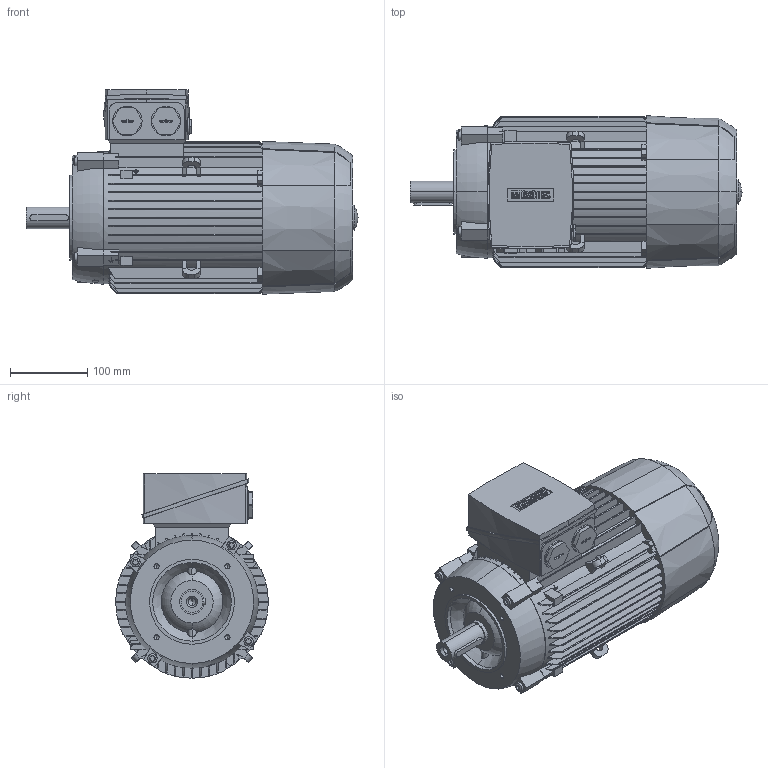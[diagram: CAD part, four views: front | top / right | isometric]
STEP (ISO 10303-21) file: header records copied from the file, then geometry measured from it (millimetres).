
FILE_DESCRIPTION(('STEP AP214'),'1');
FILE_NAME('cctmp_B2B94048-205C-4CB9-9F41-B2D7C7BCD626_2026_05_08_11_08_19_0358_12904..stp','2026-05-08T09:08:19',('KiM GmbH'),('CADClick - www.CADClick.com'),'Spatial InterOp 3D',' ','unknown authorization');
FILE_SCHEMA(('AUTOMOTIVE_DESIGN'));
Length unit declared in the file: millimetre
Products named in the file (1): 2026_05_08_11_08_19_0355
Bounding box: 430.5 x 198 x 265 mm (x, y, z)
Volume: 10278171.8 mm3; surface area: 534345.1 mm2
Topology: 7 solids, 7 shells, 1036 faces, 2911 edges, 1921 vertices
Faces by surface type: plane 667, cylinder 223, torus 108, cone 38
Entity records: 46103 total; most frequent: CARTESIAN_POINT 11062, ORIENTED_EDGE 5800, DIRECTION 5333, EDGE_CURVE 2899, VERTEX_POINT 1921, LINE 1845, VECTOR 1845, AXIS2_PLACEMENT_3D 1744
